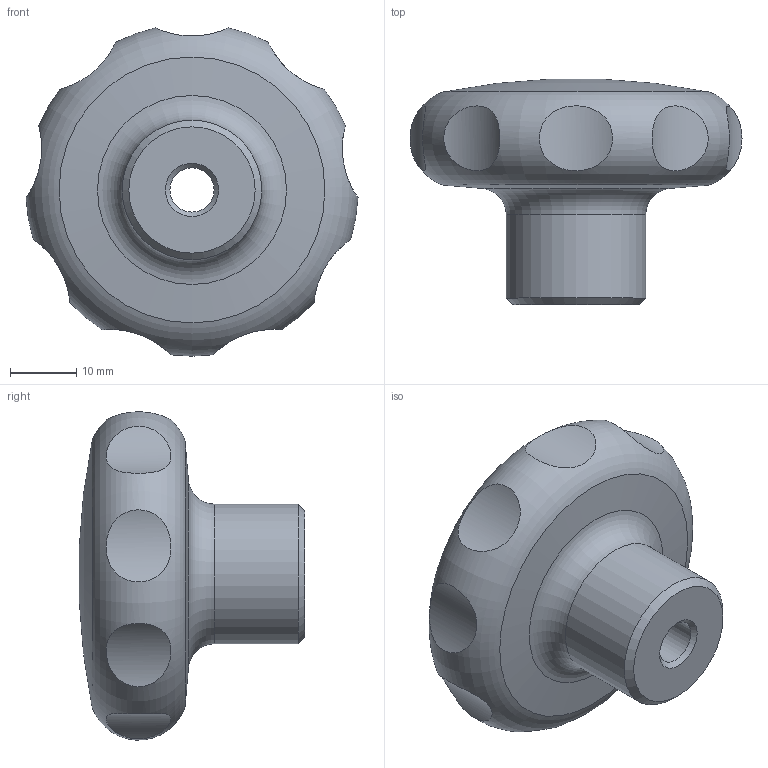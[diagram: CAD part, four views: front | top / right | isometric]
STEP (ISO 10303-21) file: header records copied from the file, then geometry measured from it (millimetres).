
FILE_DESCRIPTION( ( 'STEP AP203' ), '1' );
FILE_NAME( 'C:/Temp/Ganter_Step_05_03_2020/data/2_2/gn_5335/gn_5335_ni_d/Stainless steel-Star knob GN 5335-50-M8-D.stp', '2020-03-05T12:10:24', ( 'License CC BY-ND 4.0' ), ( 'CADENAS' ), ' ', 'PARTsolutions', ' ' );
FILE_SCHEMA( ( 'CONFIG_CONTROL_DESIGN' ) );
Length unit declared in the file: millimetre
Products named in the file (1): _Stainless steel-Star knob GN 5335-50-M8-D
Bounding box: 49.94 x 33.92 x 49.38 mm (x, y, z)
Volume: 30476.2 mm3; surface area: 6878.2 mm2
Topology: 1 solids, 1 shells, 20 faces, 30 edges, 20 vertices
Faces by surface type: cylinder 12, cone 3, torus 2, sphere 2, plane 1
Full cylindrical faces by diameter (mm): 6.647 x1, 8 x1, 21 x1
Entity records: 1164 total; most frequent: CARTESIAN_POINT 797, DIRECTION 64, EDGE_LOOP 40, ORIENTED_EDGE 40, AXIS2_PLACEMENT_3D 32, FACE_OUTER_BOUND 27, VERTEX_POINT 21, ADVANCED_FACE 20
